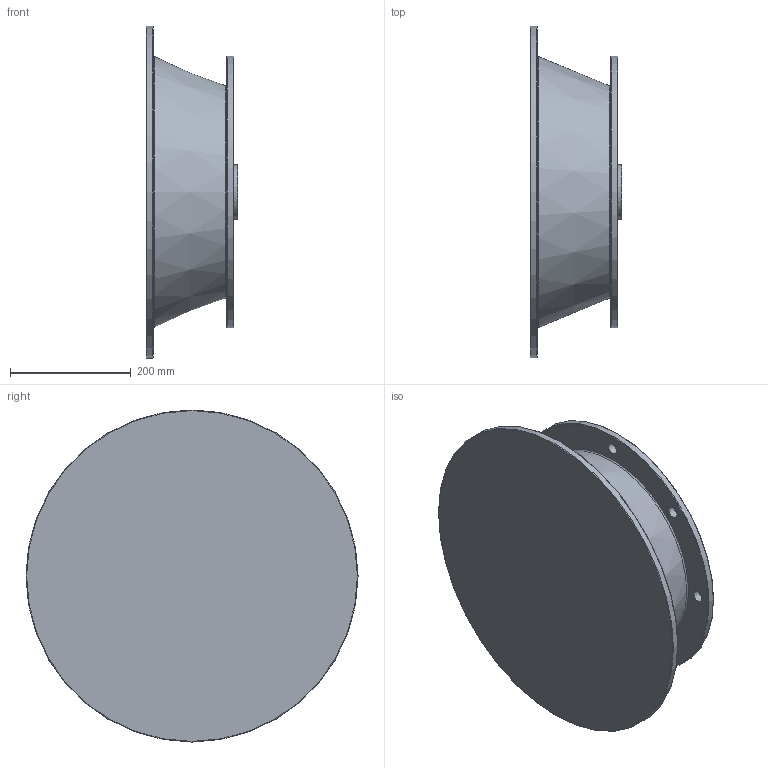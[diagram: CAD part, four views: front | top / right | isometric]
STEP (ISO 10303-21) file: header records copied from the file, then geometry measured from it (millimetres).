
FILE_DESCRIPTION((''),'2;1');
FILE_NAME('D:\PAWEŁ\ZLECENIA\DualSystem\001 Modele\DKAB150_\DK_150_STEP\225S_B5_L145,5.stp','2011-12-19T15:55:17',('Pawe'),(''),'Autodesk Inventor 2009','Autodesk Inventor 2009','');
FILE_SCHEMA(('AUTOMOTIVE_DESIGN { 1 0 10303 214 1 1 1 1 }'));
Length unit declared in the file: millimetre
Products named in the file (1): 225S_B5_L145,5
Bounding box: 152 x 550 x 550 mm (x, y, z)
Volume: 5099445.3 mm3; surface area: 1037728.6 mm2
Topology: 1 solids, 1 shells, 34 faces, 70 edges, 44 vertices
Faces by surface type: plane 11, bspline 10, cylinder 6, torus 5, cone 2
Full cylindrical faces by diameter (mm): 90 x1, 337.024 x1, 350 x1, 450 x1, 550 x1
Entity records: 1083 total; most frequent: CARTESIAN_POINT 369, DIRECTION 136, ORIENTED_EDGE 96, EDGE_LOOP 78, AXIS2_PLACEMENT_3D 63, EDGE_CURVE 48, VERTEX_POINT 44, FACE_BOUND 44
